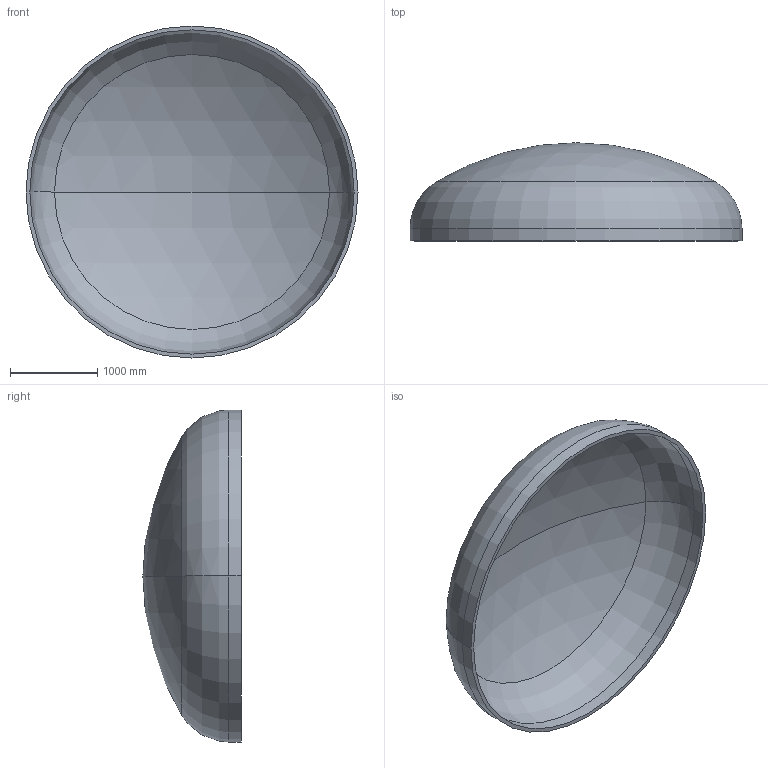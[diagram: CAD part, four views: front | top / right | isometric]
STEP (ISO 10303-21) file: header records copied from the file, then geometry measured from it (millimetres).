
FILE_DESCRIPTION (( 'STEP AP203' ), '1' );
FILE_NAME ('DIN 28013 Korbbogenform_-_Boden DIN 28013 - 3800 x 140 - I - s=44.step', '2016-07-01T21:25:30', ( '' ), ( '' ), 'SwSTEP 2.0', 'SolidWorks 2013', '' );
FILE_SCHEMA (( 'CONFIG_CONTROL_DESIGN' ));
Length unit declared in the file: millimetre
Products named in the file (1): DIN 28013 Korbbogenform_-_Boden DIN 28013 - 3800 x 140 - I - s=44
Bounding box: 3800 x 1123.62 x 3800 mm (x, y, z)
Volume: 753262644.5 mm3; surface area: 34762445.7 mm2
Topology: 1 solids, 1 shells, 13 faces, 24 edges, 14 vertices
Faces by surface type: torus 4, cylinder 4, sphere 4, plane 1
Entity records: 407 total; most frequent: DIRECTION 72, CARTESIAN_POINT 52, ORIENTED_EDGE 48, AXIS2_PLACEMENT_3D 34, EDGE_CURVE 24, CIRCLE 20, VERTEX_POINT 14, EDGE_LOOP 14
